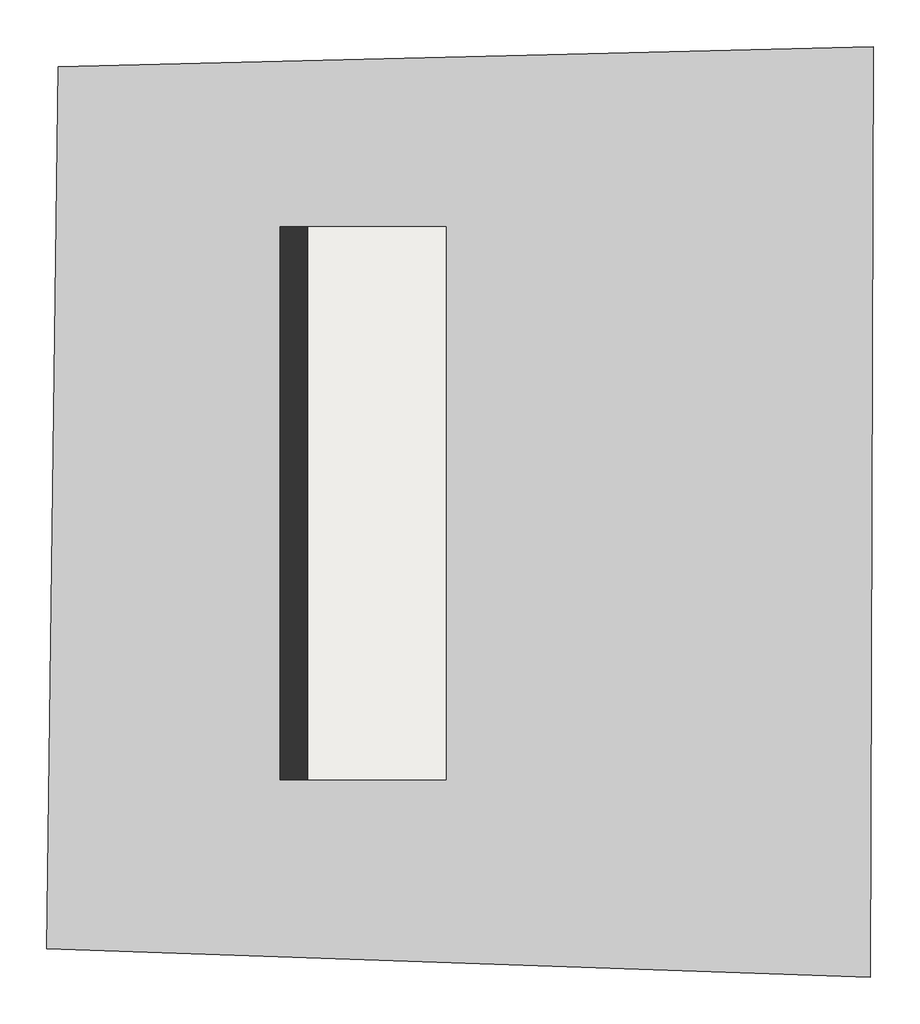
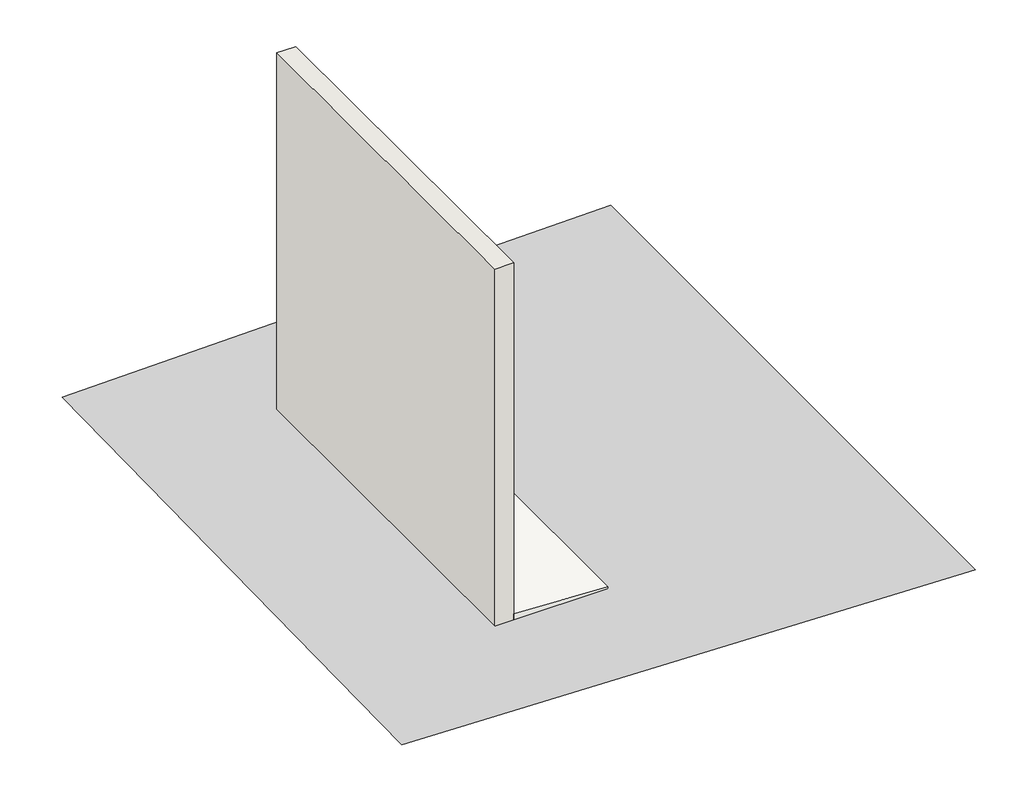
# One storey: 1 proxy, 1 slab, 1 wall.
"""IFC4 building model written with IfcOpenShell, lengths in millimetres."""

from ifc_helpers import new_model, si_unit, frame, origin, place, context, project, spatial, polyline, outline, extrude, triangles, element, save

model = new_model("IFC4")

# Units and contexts
model_context = context("Model", 3, world=origin())
ifc_project = project(units=[si_unit("LENGTHUNIT", "METRE", prefix="MILLI")], contexts=[model_context])

# Site, building, storey
site = spatial("IfcSite", under=ifc_project)
building = spatial("IfcBuilding", under=site)
storey = spatial("IfcBuildingStorey", under=building, Name="标高 1", Elevation=0.0)

# Proxy
placement = place(None, origin())
element("IfcBuildingElementProxy", 1, Name="Building Element Proxy", at=placement, inside=storey, context=model_context, shape_type="Tessellation", body=[
    triangles([(-9079.4010361, 4856.3765373, 0.0), (-3180.5093536, 5002.2853638, 0.0), (-9162.7773422, -1521.9305042, 0.0), (-3201.3534302, -1730.371851, 0.0)], [[1, 3, 4], [4, 2, 1]], closed=False),
])

# Slab
element("IfcSlab", 2, ObjectType="散水", at=placement, inside=storey, context=model_context, shape_type="SweptSolid", body=[
    extrude(outline(polyline([(-30.0, -7272.746249), (-30.0, -6272.746249), (20.0, -6272.746249), (70.0, -7272.746249), (-30.0, -7272.746249)])), frame((0.0, -301.5666823, 0.0), z_axis=(0.0, 1.0, 0.0), x_axis=(0.0, 0.0, 1.0)), (0.0, 0.0, 1.0), 4000.0),
])

# Wall
element("IfcWall", 3, ObjectType="常规 - 200mm", at=placement, inside=storey, context=model_context, shape_type="SweptSolid", body=[
    extrude(outline(polyline([(-7472.746249, -301.5666823), (-7472.746249, 3698.4333177), (-7272.746249, 3698.4333177), (-7272.746249, -301.5666823), (-7472.746249, -301.5666823)])), frame((0.0, 0.0, -500.0), z_axis=(0.0, 0.0, 1.0), x_axis=(1.0, 0.0, 0.0)), (0.0, 0.0, 1.0), 4500.0),
])

save(model, "model.ifc")
